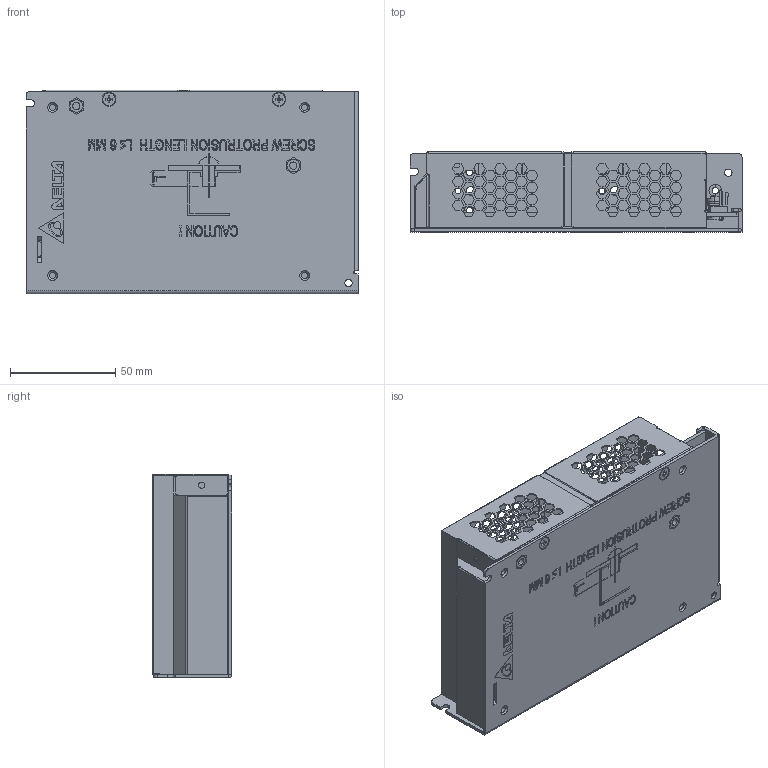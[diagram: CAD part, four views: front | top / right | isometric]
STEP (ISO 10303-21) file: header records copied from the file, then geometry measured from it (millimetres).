
FILE_DESCRIPTION((''),'2;1');
FILE_NAME('PMH-24V100WCCT_ASM_ASM','2018-05-28T',('warud'),(''),'PRO/ENGINEER BY PARAMETRIC TECHNOLOGY CORPORATION, 2010180','PRO/ENGINEER BY PARAMETRIC TECHNOLOGY CORPORATION, 2010180','');
FILE_SCHEMA(('CONFIG_CONTROL_DESIGN','SHAPE_APPEARANCE_LAYERS_GROUPS'));
Products named in the file (14): PWB_MAIN_1; EE_VR550_2_1; EE_LED350_1_1; 3123303900_LED_HOLDER_3_1; A3963WV2-6P-B_1; 3076433034_1; ASSY_PWB_PMH-24V100WCCT_ASM_ASM; 3105318100_8_1; 330DTXXXXX_CHASSIS_35_1; 330304670103_A_STUD_4_1; 330323340101_ASM_13_ASM_1_ASM_ASM; 330300560101_21_1; 3262038604_4_1; PMH-24V100WCCT_ASM_ASM
Assembly tree (17 placements, depth 3):
  PMH-24V100WCCT_ASM_ASM
    ASSY_PWB_PMH-24V100WCCT_ASM_ASM
      PWB_MAIN_1
      EE_VR550_2_1
      EE_LED350_1_1
      3123303900_LED_HOLDER_3_1
      A3963WV2-6P-B_1
      3076433034_1
    3105318100_8_1  x4
    330323340101_ASM_13_ASM_1_ASM_ASM
      330DTXXXXX_CHASSIS_35_1
      330304670103_A_STUD_4_1  x2
    330300560101_21_1
    3262038604_4_1
Bounding box: 158 x 38.07 x 97 mm (x, y, z)
Volume: 68156.8 mm3; surface area: 120064.1 mm2
Topology: 15 solids, 15 shells, 4888 faces, 13536 edges, 8541 vertices
Faces by surface type: plane 3626, cylinder 465, extrusion 369, bspline 344, cone 82, sphere 2
Entity records: 164021 total; most frequent: CARTESIAN_POINT 37005, ORIENTED_EDGE 26028, DIRECTION 21385, EDGE_CURVE 13014, VECTOR 11539, LINE 11170, VERTEX_POINT 8260, EDGE_LOOP 5227
